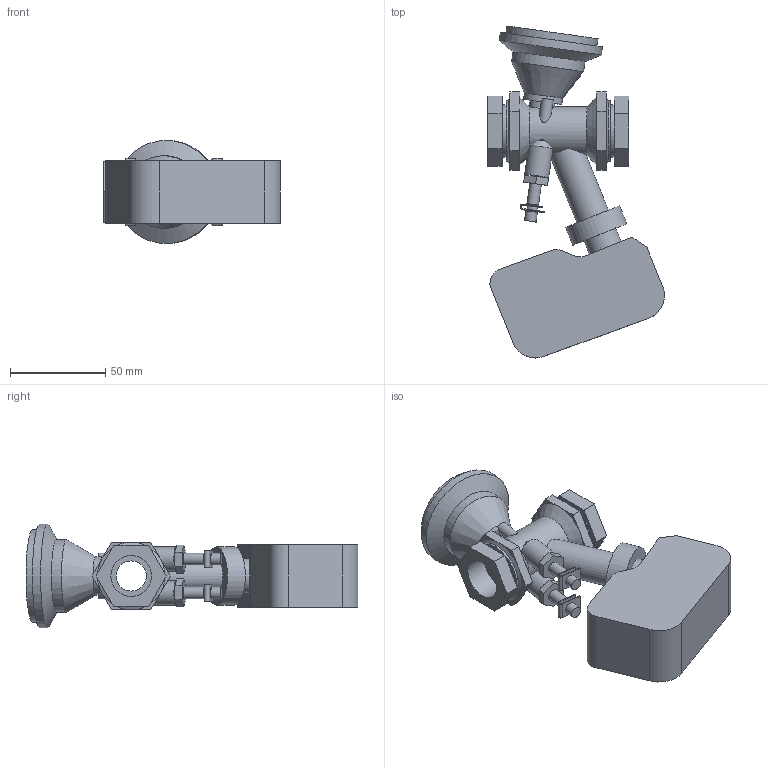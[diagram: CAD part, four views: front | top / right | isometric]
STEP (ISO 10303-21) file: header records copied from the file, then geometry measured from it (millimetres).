
FILE_DESCRIPTION(/* description */ ('VIC BALANCING AND CONTROL VALVE SERIES 7CP (FPT)-TA SLIDER 160','CAx-IF Rec.Pracs.---Representation and Presentation of Product Manufacturing Information (PMI)---4.0---2014-10-13'),/* implementation_level */ '2;1');
FILE_NAME(/* name */ 'C:\Users\Vjadhav\AppData\Roaming\Autodesk\ApplicationPlugins\Victaulic.Temp\A633\Victaulic_IPS_Valve Balancing Pressure Independent_TA Series 7CP (FPT)_Slider 160_0.5 (15).stp',/* time_stamp */ '2021-09-14T20:03:03+06:00',/* author */ ('Vjadhav'),/* organization */ ('Victaulic'),/* preprocessor_version */ 'ST-DEVELOPER v17.2',/* originating_system */ 'Autodesk Inventor 2019',/* authorisation */ '');
FILE_SCHEMA (('AP242_MANAGED_MODEL_BASED_3D_ENGINEERING_MIM_LF { 1 0 10303 442 1 1 4 }'));
Length unit declared in the file: inch
Products named in the file (2): 7CP_Slider 160-0.5; 7CP-0.5
Assembly tree (1 placements, depth 2):
  7CP_Slider 160-0.5
    7CP-0.5
Bounding box: 92.67 x 173.99 x 54.1 mm (x, y, z)
Volume: 220483.1 mm3; surface area: 46755.9 mm2
Topology: 1 solids, 1 shells, 172 faces, 440 edges, 294 vertices
Faces by surface type: plane 118, cylinder 46, cone 8
Full cylindrical faces by diameter (mm): 5.08 x6, 6.096 x8, 12.7 x2, 15.799 x2, 17.78 x2, 20.32 x1, 21.336 x3, 25.4 x1, 27.432 x2, 30.471 x1, 31.75 x2, 38.1 x1, 48.26 x1, 54.102 x1
Entity records: 5782 total; most frequent: CARTESIAN_POINT 1154, DIRECTION 942, ORIENTED_EDGE 880, EDGE_CURVE 440, AXIS2_PLACEMENT_3D 348, VERTEX_POINT 294, LINE 246, VECTOR 246
